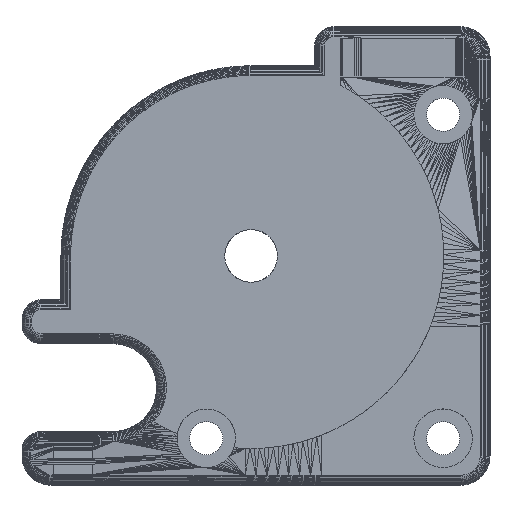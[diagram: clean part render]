
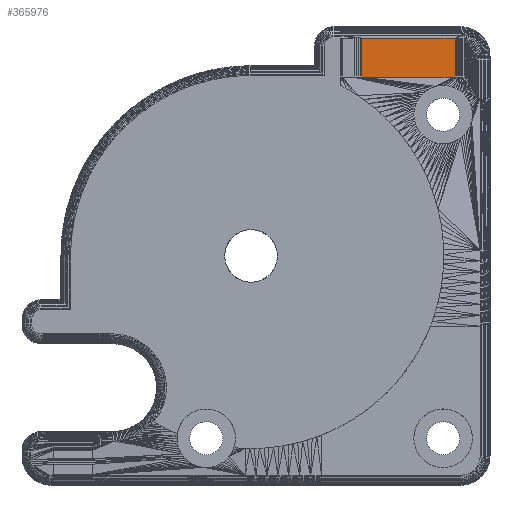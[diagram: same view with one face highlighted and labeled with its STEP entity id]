
A CAD part, top view. The second image highlights one B-rep face of the part: STEP entity #365976.
In plain terms, the highlighted planar face has unit normal (0, 0, 1).
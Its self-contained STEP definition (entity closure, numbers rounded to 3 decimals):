
#60044 = VERTEX_POINT('',#60045);
#60045 = CARTESIAN_POINT('',(135.363,139.35,
    7.151));
#60059 = PLANE('',#60060);
#60060 = AXIS2_PLACEMENT_3D('',#60061,#60062,#60063);
#60061 = CARTESIAN_POINT('',(135.17,139.35,
    7.151));
#60062 = DIRECTION('',(0.,0.,1.));
#60063 = DIRECTION('',(1.,0.,0.));
#60085 = PLANE('',#60086);
#60086 = AXIS2_PLACEMENT_3D('',#60087,#60088,#60089);
#60087 = CARTESIAN_POINT('',(145.5,139.631,7.114));
#60088 = DIRECTION('',(-0.,0.131,0.991));
#60089 = DIRECTION('',(0.,0.991,-0.131));
#60130 = EDGE_CURVE('',#60044,#60131,#60133,.T.);
#60131 = VERTEX_POINT('',#60132);
#60132 = CARTESIAN_POINT('',(144.911,139.35,
    7.151));
#60133 = SURFACE_CURVE('',#60134,(#60138,#60145),.PCURVE_S1.);
#60134 = LINE('',#60135,#60136);
#60135 = CARTESIAN_POINT('',(135.363,139.35,
    7.151));
#60136 = VECTOR('',#60137,1.);
#60137 = DIRECTION('',(1.,0.,0.));
#60138 = PCURVE('',#60085,#60139);
#60139 = DEFINITIONAL_REPRESENTATION('',(#60140),#60144);
#60140 = LINE('',#60141,#60142);
#60141 = CARTESIAN_POINT('',(-0.283,10.137));
#60142 = VECTOR('',#60143,1.);
#60143 = DIRECTION('',(0.,-1.));
#60144 = ( GEOMETRIC_REPRESENTATION_CONTEXT(2) 
PARAMETRIC_REPRESENTATION_CONTEXT() REPRESENTATION_CONTEXT('2D SPACE',''
  ) );
#60145 = PCURVE('',#60146,#60151);
#60146 = PLANE('',#60147);
#60147 = AXIS2_PLACEMENT_3D('',#60148,#60149,#60150);
#60148 = CARTESIAN_POINT('',(144.911,139.35,
    7.151));
#60149 = DIRECTION('',(0.,-0.,1.));
#60150 = DIRECTION('',(1.,0.,0.));
#60151 = DEFINITIONAL_REPRESENTATION('',(#60152),#60156);
#60152 = LINE('',#60153,#60154);
#60153 = CARTESIAN_POINT('',(-9.548,0.));
#60154 = VECTOR('',#60155,1.);
#60155 = DIRECTION('',(1.,0.));
#60156 = ( GEOMETRIC_REPRESENTATION_CONTEXT(2) 
PARAMETRIC_REPRESENTATION_CONTEXT() REPRESENTATION_CONTEXT('2D SPACE',''
  ) );
#60203 = PLANE('',#60204);
#60204 = AXIS2_PLACEMENT_3D('',#60205,#60206,#60207);
#60205 = CARTESIAN_POINT('',(144.911,139.35,
    7.151));
#60206 = DIRECTION('',(0.,-0.,1.));
#60207 = DIRECTION('',(1.,0.,0.));
#231168 = VERTEX_POINT('',#231169);
#231169 = CARTESIAN_POINT('',(144.911,135.35,
    7.151));
#231236 = PLANE('',#231237);
#231237 = AXIS2_PLACEMENT_3D('',#231238,#231239,#231240);
#231238 = CARTESIAN_POINT('',(144.911,135.35,
    7.151));
#231239 = DIRECTION('',(0.,0.131,0.991));
#231240 = DIRECTION('',(0.,0.991,-0.131));
#231444 = VERTEX_POINT('',#231445);
#231445 = CARTESIAN_POINT('',(135.363,135.35,
    7.151));
#232210 = EDGE_CURVE('',#231168,#231444,#232211,.T.);
#232211 = SURFACE_CURVE('',#232212,(#232216,#232223),.PCURVE_S1.);
#232212 = LINE('',#232213,#232214);
#232213 = CARTESIAN_POINT('',(144.911,135.35,
    7.151));
#232214 = VECTOR('',#232215,1.);
#232215 = DIRECTION('',(-1.,0.,0.));
#232216 = PCURVE('',#231236,#232217);
#232217 = DEFINITIONAL_REPRESENTATION('',(#232218),#232222);
#232218 = LINE('',#232219,#232220);
#232219 = CARTESIAN_POINT('',(0.,0.));
#232220 = VECTOR('',#232221,1.);
#232221 = DIRECTION('',(0.,1.));
#232222 = ( GEOMETRIC_REPRESENTATION_CONTEXT(2) 
PARAMETRIC_REPRESENTATION_CONTEXT() REPRESENTATION_CONTEXT('2D SPACE',''
  ) );
#232223 = PCURVE('',#60146,#232224);
#232224 = DEFINITIONAL_REPRESENTATION('',(#232225),#232229);
#232225 = LINE('',#232226,#232227);
#232226 = CARTESIAN_POINT('',(0.,-4.));
#232227 = VECTOR('',#232228,1.);
#232228 = DIRECTION('',(-1.,0.));
#232229 = ( GEOMETRIC_REPRESENTATION_CONTEXT(2) 
PARAMETRIC_REPRESENTATION_CONTEXT() REPRESENTATION_CONTEXT('2D SPACE',''
  ) );
#365953 = EDGE_CURVE('',#231168,#60131,#365954,.T.);
#365954 = SURFACE_CURVE('',#365955,(#365959,#365966),.PCURVE_S1.);
#365955 = LINE('',#365956,#365957);
#365956 = CARTESIAN_POINT('',(144.911,135.35,
    7.151));
#365957 = VECTOR('',#365958,1.);
#365958 = DIRECTION('',(0.,1.,0.));
#365959 = PCURVE('',#60203,#365960);
#365960 = DEFINITIONAL_REPRESENTATION('',(#365961),#365965);
#365961 = LINE('',#365962,#365963);
#365962 = CARTESIAN_POINT('',(0.,-4.));
#365963 = VECTOR('',#365964,1.);
#365964 = DIRECTION('',(0.,1.));
#365965 = ( GEOMETRIC_REPRESENTATION_CONTEXT(2) 
PARAMETRIC_REPRESENTATION_CONTEXT() REPRESENTATION_CONTEXT('2D SPACE',''
  ) );
#365966 = PCURVE('',#60146,#365967);
#365967 = DEFINITIONAL_REPRESENTATION('',(#365968),#365972);
#365968 = LINE('',#365969,#365970);
#365969 = CARTESIAN_POINT('',(0.,-4.));
#365970 = VECTOR('',#365971,1.);
#365971 = DIRECTION('',(0.,1.));
#365972 = ( GEOMETRIC_REPRESENTATION_CONTEXT(2) 
PARAMETRIC_REPRESENTATION_CONTEXT() REPRESENTATION_CONTEXT('2D SPACE',''
  ) );
#365976 = ADVANCED_FACE('',(#365977),#60146,.T.);
#365977 = FACE_BOUND('',#365978,.T.);
#365978 = EDGE_LOOP('',(#365979,#365980,#366001,#366002));
#365979 = ORIENTED_EDGE('',*,*,#60130,.F.);
#365980 = ORIENTED_EDGE('',*,*,#365981,.T.);
#365981 = EDGE_CURVE('',#60044,#231444,#365982,.T.);
#365982 = SURFACE_CURVE('',#365983,(#365987,#365994),.PCURVE_S1.);
#365983 = LINE('',#365984,#365985);
#365984 = CARTESIAN_POINT('',(135.363,139.35,
    7.151));
#365985 = VECTOR('',#365986,1.);
#365986 = DIRECTION('',(0.,-1.,0.));
#365987 = PCURVE('',#60146,#365988);
#365988 = DEFINITIONAL_REPRESENTATION('',(#365989),#365993);
#365989 = LINE('',#365990,#365991);
#365990 = CARTESIAN_POINT('',(-9.548,0.));
#365991 = VECTOR('',#365992,1.);
#365992 = DIRECTION('',(0.,-1.));
#365993 = ( GEOMETRIC_REPRESENTATION_CONTEXT(2) 
PARAMETRIC_REPRESENTATION_CONTEXT() REPRESENTATION_CONTEXT('2D SPACE',''
  ) );
#365994 = PCURVE('',#60059,#365995);
#365995 = DEFINITIONAL_REPRESENTATION('',(#365996),#366000);
#365996 = LINE('',#365997,#365998);
#365997 = CARTESIAN_POINT('',(0.193,0.));
#365998 = VECTOR('',#365999,1.);
#365999 = DIRECTION('',(0.,-1.));
#366000 = ( GEOMETRIC_REPRESENTATION_CONTEXT(2) 
PARAMETRIC_REPRESENTATION_CONTEXT() REPRESENTATION_CONTEXT('2D SPACE',''
  ) );
#366001 = ORIENTED_EDGE('',*,*,#232210,.F.);
#366002 = ORIENTED_EDGE('',*,*,#365953,.T.);
